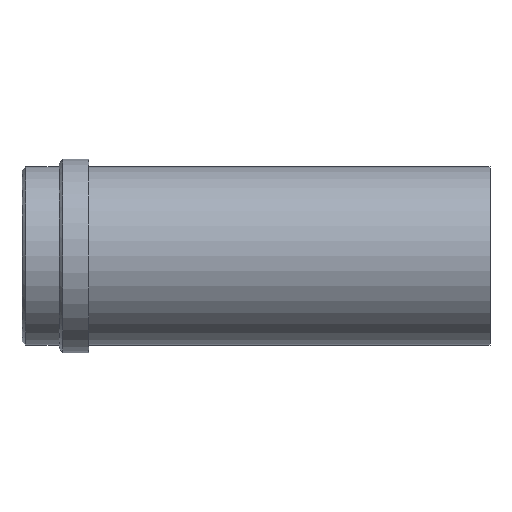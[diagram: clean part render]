
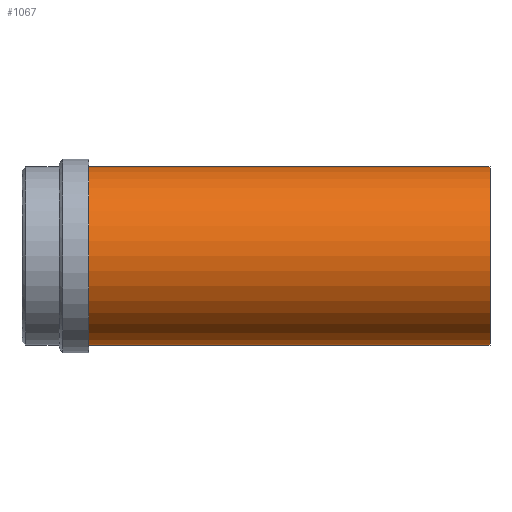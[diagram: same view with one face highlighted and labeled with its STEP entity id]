
A CAD part, front view. The second image highlights one B-rep face of the part: STEP entity #1067.
In plain terms, the highlighted cylindrical face has radius 24 mm (diameter 48 mm), a partial arc.
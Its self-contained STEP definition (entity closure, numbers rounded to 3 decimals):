
#953=CARTESIAN_POINT('Vertex',(0.,0.,-24.)) ;
#958=CARTESIAN_POINT('Axis2P3D Location',(0.,0.,0.)) ;
#962=CARTESIAN_POINT('Vertex',(0.,-24.,0.)) ;
#965=CARTESIAN_POINT('Axis2P3D Location',(0.,0.,0.)) ;
#969=CARTESIAN_POINT('Vertex',(0.,0.,24.)) ;
#995=CARTESIAN_POINT('Vertex',(108.,0.,24.)) ;
#998=CARTESIAN_POINT('Axis2P3D Location',(108.,0.,0.)) ;
#1002=CARTESIAN_POINT('Vertex',(108.,-24.,0.)) ;
#1005=CARTESIAN_POINT('Axis2P3D Location',(108.,0.,0.)) ;
#1009=CARTESIAN_POINT('Vertex',(108.,0.,-24.)) ;
#1035=CARTESIAN_POINT('Line Origine',(108.,0.,24.)) ;
#1040=CARTESIAN_POINT('Line Origine',(108.,0.,-24.)) ;
#1054=CARTESIAN_POINT('Axis2P3D Location',(108.,0.,0.)) ;
#959=DIRECTION('Axis2P3D Direction',(1.,0.,-0.)) ;
#966=DIRECTION('Axis2P3D Direction',(1.,0.,-0.)) ;
#999=DIRECTION('Axis2P3D Direction',(1.,0.,-0.)) ;
#1006=DIRECTION('Axis2P3D Direction',(1.,0.,-0.)) ;
#1036=DIRECTION('Vector Direction',(-1.,0.,0.)) ;
#1041=DIRECTION('Vector Direction',(-1.,0.,0.)) ;
#1055=DIRECTION('Axis2P3D Direction',(-1.,-0.,-0.)) ;
#1056=DIRECTION('Axis2P3D XDirection',(0.,0.,-1.)) ;
#960=AXIS2_PLACEMENT_3D('Circle Axis2P3D',#958,#959,$) ;
#967=AXIS2_PLACEMENT_3D('Circle Axis2P3D',#965,#966,$) ;
#1000=AXIS2_PLACEMENT_3D('Circle Axis2P3D',#998,#999,$) ;
#1007=AXIS2_PLACEMENT_3D('Circle Axis2P3D',#1005,#1006,$) ;
#1057=AXIS2_PLACEMENT_3D('Cylinder Axis2P3D',#1054,#1055,#1056) ;
#1060=ORIENTED_EDGE('',*,*,#1044,.T.) ;
#1061=ORIENTED_EDGE('',*,*,#1011,.F.) ;
#1062=ORIENTED_EDGE('',*,*,#1004,.F.) ;
#1063=ORIENTED_EDGE('',*,*,#1039,.T.) ;
#1064=ORIENTED_EDGE('',*,*,#971,.T.) ;
#1065=ORIENTED_EDGE('',*,*,#964,.T.) ;
#1037=VECTOR('Line Direction',#1036,1.) ;
#1042=VECTOR('Line Direction',#1041,1.) ;
#1067=ADVANCED_FACE('358-40X126',(#1066),#1058,.T.) ;
#961=CIRCLE('generated circle',#960,24.) ;
#968=CIRCLE('generated circle',#967,24.) ;
#1001=CIRCLE('generated circle',#1000,24.) ;
#1008=CIRCLE('generated circle',#1007,24.) ;
#1058=CYLINDRICAL_SURFACE('generated cylinder',#1057,24.) ;
#964=EDGE_CURVE('',#963,#954,#961,.T.) ;
#971=EDGE_CURVE('',#970,#963,#968,.T.) ;
#1004=EDGE_CURVE('',#996,#1003,#1001,.T.) ;
#1011=EDGE_CURVE('',#1003,#1010,#1008,.T.) ;
#1039=EDGE_CURVE('',#996,#970,#1038,.T.) ;
#1044=EDGE_CURVE('',#954,#1010,#1043,.F.) ;
#1059=EDGE_LOOP('',(#1060,#1061,#1062,#1063,#1064,#1065)) ;
#1066=FACE_OUTER_BOUND('',#1059,.T.) ;
#1038=LINE('Line',#1035,#1037) ;
#1043=LINE('Line',#1040,#1042) ;
#954=VERTEX_POINT('',#953) ;
#963=VERTEX_POINT('',#962) ;
#970=VERTEX_POINT('',#969) ;
#996=VERTEX_POINT('',#995) ;
#1003=VERTEX_POINT('',#1002) ;
#1010=VERTEX_POINT('',#1009) ;
